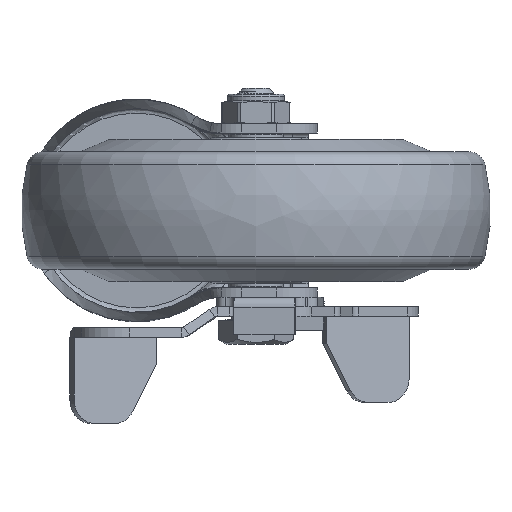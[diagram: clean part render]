
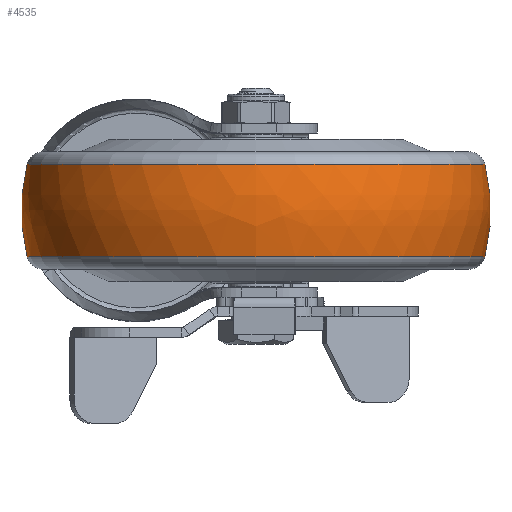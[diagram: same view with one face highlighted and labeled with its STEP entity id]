
A CAD part, front view. The second image highlights one B-rep face of the part: STEP entity #4535.
In plain terms, the highlighted free-form (B-spline) face has degree [3, 3] with [7, 4] control points.
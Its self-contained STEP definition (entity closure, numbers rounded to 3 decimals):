
#4037=CARTESIAN_POINT('',(0.,10.,0.));
#4038=DIRECTION('',(0.,0.,1.));
#4039=DIRECTION('',(0.247,0.969,0.));
#4040=AXIS2_PLACEMENT_3D('',#4037,#4038,#4039);
#4042=CARTESIAN_POINT('',(0.,-10.,0.));
#4043=DIRECTION('',(0.,0.,-1.));
#4044=DIRECTION('',(0.247,-0.969,0.));
#4045=AXIS2_PLACEMENT_3D('',#4042,#4043,#4044);
#4047=CARTESIAN_POINT('',(9.863,0.,0.));
#4048=DIRECTION('',(-1.,0.,0.));
#4049=DIRECTION('',(0.,1.,0.));
#4050=AXIS2_PLACEMENT_3D('',#4047,#4048,#4049);
#4072=CARTESIAN_POINT('',(-9.863,0.,0.));
#4073=DIRECTION('',(-1.,0.,0.));
#4074=DIRECTION('',(0.,1.,0.));
#4075=AXIS2_PLACEMENT_3D('',#4072,#4073,#4074);
#4226=CARTESIAN_POINT('',(9.863,48.765,0.));
#4228=VERTEX_POINT('',#4226);
#4229=CARTESIAN_POINT('',(-9.863,48.765,0.));
#4230=VERTEX_POINT('',#4229);
#4266=CARTESIAN_POINT('',(9.863,-48.765,
0.));
#4268=VERTEX_POINT('',#4266);
#4269=CARTESIAN_POINT('',(-9.863,-48.765,
0.));
#4270=VERTEX_POINT('',#4269);
#4497=CARTESIAN_POINT('',(-10.249,-48.569,
3.056));
#4498=CARTESIAN_POINT('',(-3.494,-50.356,
3.168));
#4499=CARTESIAN_POINT('',(3.494,-50.356,3.168));
#4500=CARTESIAN_POINT('',(10.249,-48.569,3.056));
#4501=CARTESIAN_POINT('',(-10.249,-50.449,
-26.833));
#4502=CARTESIAN_POINT('',(-3.494,-52.305,
-27.821));
#4503=CARTESIAN_POINT('',(3.494,-52.305,
-27.821));
#4504=CARTESIAN_POINT('',(10.249,-50.449,
-26.833));
#4505=CARTESIAN_POINT('',(-10.249,-29.948,
-48.665));
#4506=CARTESIAN_POINT('',(-3.494,-31.05,
-50.455));
#4507=CARTESIAN_POINT('',(3.494,-31.05,
-50.455));
#4508=CARTESIAN_POINT('',(10.249,-29.948,
-48.665));
#4509=CARTESIAN_POINT('',(-10.249,0.,
-48.665));
#4510=CARTESIAN_POINT('',(-3.494,0.,
-50.455));
#4511=CARTESIAN_POINT('',(3.494,0.,
-50.455));
#4512=CARTESIAN_POINT('',(10.249,0.,
-48.665));
#4513=CARTESIAN_POINT('',(-10.249,29.948,
-48.665));
#4514=CARTESIAN_POINT('',(-3.494,31.05,
-50.455));
#4515=CARTESIAN_POINT('',(3.494,31.05,-50.455));
#4516=CARTESIAN_POINT('',(10.249,29.948,-48.665));
#4517=CARTESIAN_POINT('',(-10.249,50.449,
-26.833));
#4518=CARTESIAN_POINT('',(-3.494,52.305,
-27.821));
#4519=CARTESIAN_POINT('',(3.494,52.305,-27.821));
#4520=CARTESIAN_POINT('',(10.249,50.449,-26.833));
#4521=CARTESIAN_POINT('',(-10.249,48.569,3.056));
#4522=CARTESIAN_POINT('',(-3.494,50.356,3.168));
#4523=CARTESIAN_POINT('',(3.494,50.356,3.168));
#4524=CARTESIAN_POINT('',(10.249,48.569,3.056));
#4525=(BOUNDED_SURFACE()B_SPLINE_SURFACE(3,3,((#4497,#4498,#4499,#4500),(#4501,
#4502,#4503,#4504),(#4505,#4506,#4507,#4508),(#4509,#4510,#4511,#4512),(#4513,
#4514,#4515,#4516),(#4517,#4518,#4519,#4520),(#4521,#4522,#4523,#4524)),
.UNSPECIFIED.,.F.,.F.,.F.)B_SPLINE_SURFACE_WITH_KNOTS((4,3,4),(4,4),(0.,1.,
2.),(0.,1.),.UNSPECIFIED.)GEOMETRIC_REPRESENTATION_ITEM()RATIONAL_B_SPLINE_SURFACE(((1.207,1.181,1.181,1.207),(
0.953,0.932,0.932,0.953),(
0.953,0.932,0.932,0.953),(
1.207,1.181,1.181,1.207),(
0.953,0.932,0.932,0.953),(
0.953,0.932,0.932,0.953),(
1.207,1.181,1.181,1.207)))REPRESENTATION_ITEM('')SURFACE());
#4527=ORIENTED_EDGE('',*,*,#4526,.T.);
#4529=ORIENTED_EDGE('',*,*,#4528,.T.);
#4531=ORIENTED_EDGE('',*,*,#4530,.F.);
#4532=ORIENTED_EDGE('',*,*,#4490,.F.);
#4533=EDGE_LOOP('',(#4527,#4529,#4531,#4532));
#4534=FACE_OUTER_BOUND('',#4533,.F.);
#4041=CIRCLE('',#4040,40.);
#4046=CIRCLE('',#4045,40.);
#4051=CIRCLE('',#4050,48.765);
#4076=CIRCLE('',#4075,48.765);
#4490=EDGE_CURVE('',#4228,#4268,#4051,.T.);
#4526=EDGE_CURVE('',#4228,#4230,#4041,.T.);
#4528=EDGE_CURVE('',#4230,#4270,#4076,.T.);
#4530=EDGE_CURVE('',#4268,#4270,#4046,.T.);
#4535=ADVANCED_FACE('',(#4534),#4525,.T.);
